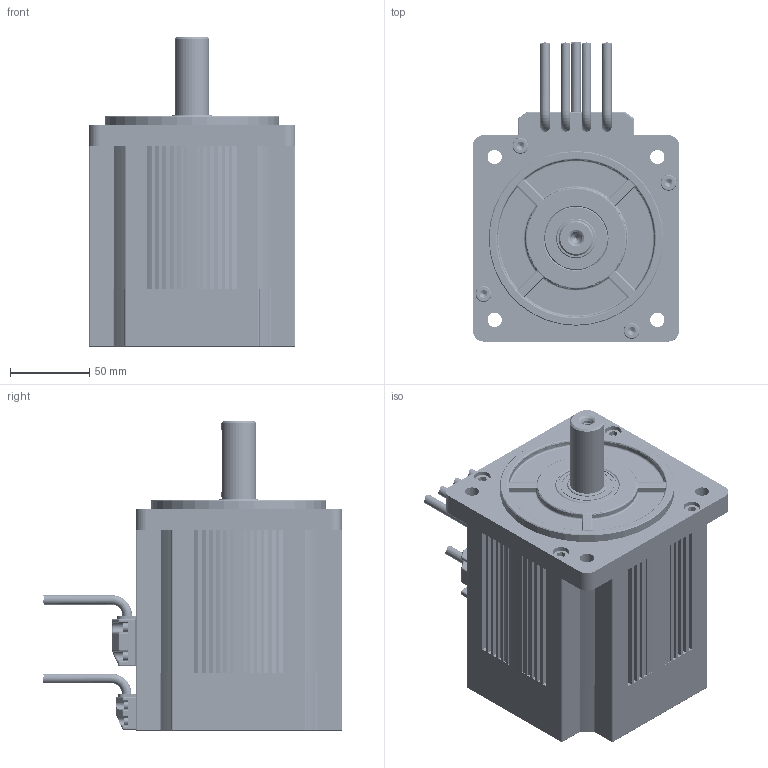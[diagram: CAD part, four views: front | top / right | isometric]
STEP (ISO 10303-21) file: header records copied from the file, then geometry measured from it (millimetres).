
FILE_DESCRIPTION (( 'STEP AP203' ), '1' );
FILE_NAME ('130L40-N-竘盄碟-4盄.STEP', '2022-07-30T08:18:48', ( 'muse' ), ( 'Organization' ), 'SwSTEP 2.0', 'SolidWorks 2018', '' );
FILE_SCHEMA (( 'CONFIG_CONTROL_DESIGN' ));
Products named in the file (1): 130L40-N-竘盄碟-4盄
Bounding box: 130 x 188.82 x 195 mm (x, y, z)
Volume: 830848.7 mm3; surface area: 334299.9 mm2
Topology: 31 solids, 31 shells, 4657 faces, 10198 edges, 5604 vertices
Faces by surface type: cone 1947, cylinder 1609, plane 687, bspline 179, torus 177, sphere 58
Entity records: 130059 total; most frequent: CARTESIAN_POINT 27720, DIRECTION 23299, ORIENTED_EDGE 20212, EDGE_CURVE 10106, AXIS2_PLACEMENT_3D 9193, VERTEX_POINT 5598, LINE 4913, VECTOR 4913
